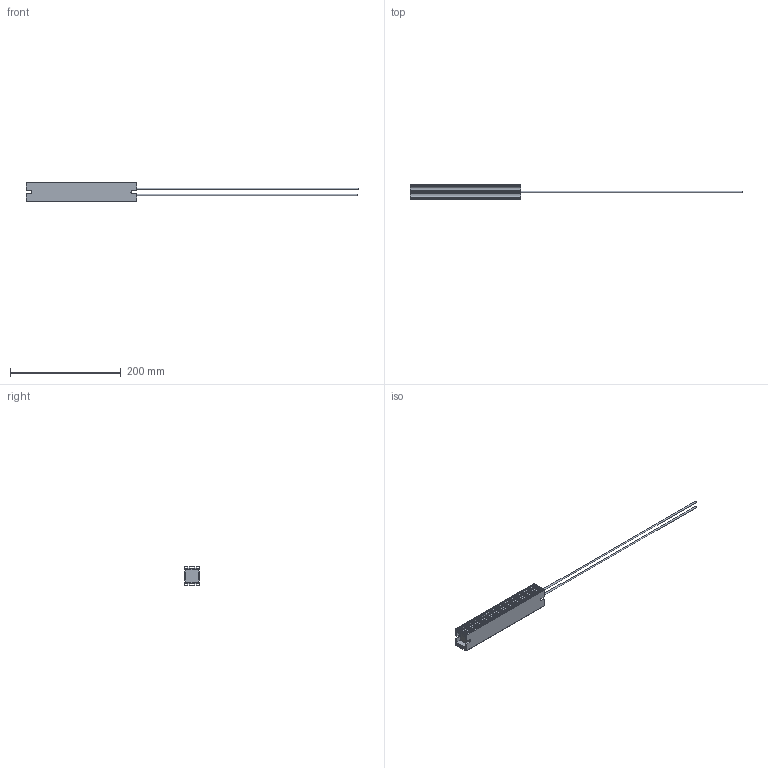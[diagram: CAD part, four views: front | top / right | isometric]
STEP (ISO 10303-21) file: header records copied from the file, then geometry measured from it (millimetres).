
FILE_DESCRIPTION(/* description */ (''),/* implementation_level */ '2;1');
FILE_NAME(/* name */ 'C:\_Vault\Dati\CATALOGO\RFZC\3D\RFZC200.stp',/* time_stamp */ '2014-03-27T17:40:27+01:00',/* author */ ('stefano'),/* organization */ (''),/* preprocessor_version */ 'ST-DEVELOPER v15.2',/* originating_system */ 'Autodesk Inventor 2014',/* authorisation */ '');
FILE_SCHEMA (('AUTOMOTIVE_DESIGN { 1 0 10303 214 3 1 1 }'));
Length unit declared in the file: millimetre
Products named in the file (1): RFZC200
Bounding box: 600 x 27 x 36 mm (x, y, z)
Volume: 165957.8 mm3; surface area: 52315.8 mm2
Topology: 1 solids, 1 shells, 94 faces, 262 edges, 172 vertices
Faces by surface type: plane 70, cylinder 24
Full cylindrical faces by diameter (mm): 3 x2
Entity records: 3124 total; most frequent: CARTESIAN_POINT 527, ORIENTED_EDGE 520, DIRECTION 506, EDGE_CURVE 260, LINE 204, VECTOR 204, VERTEX_POINT 172, AXIS2_PLACEMENT_3D 151
